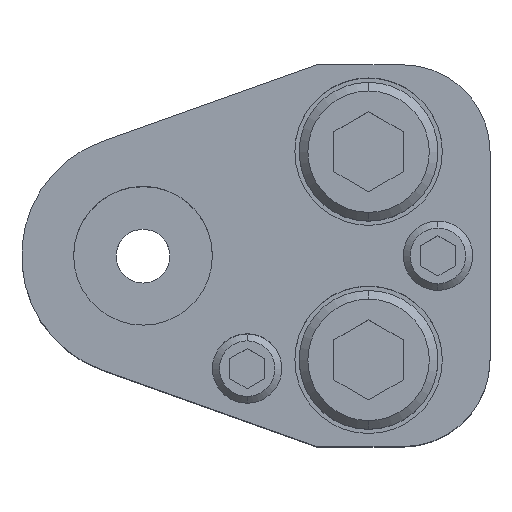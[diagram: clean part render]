
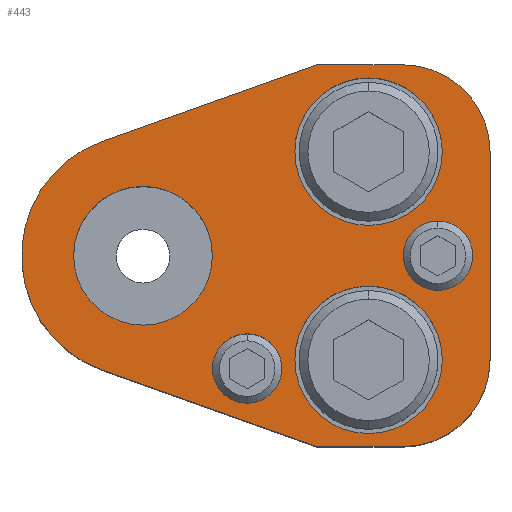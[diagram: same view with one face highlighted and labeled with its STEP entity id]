
A CAD part, top view. The second image highlights one B-rep face of the part: STEP entity #443.
In plain terms, the highlighted planar face has unit normal (0, 0, 1).
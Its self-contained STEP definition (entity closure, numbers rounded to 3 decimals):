
#206=FACE_BOUND('',#803,.T.);
#207=FACE_BOUND('',#804,.T.);
#208=FACE_BOUND('',#805,.T.);
#209=FACE_BOUND('',#806,.T.);
#210=FACE_BOUND('',#807,.T.);
#211=FACE_BOUND('',#808,.T.);
#269=CIRCLE('',#2664,10.);
#271=CIRCLE('',#2668,10.);
#274=CIRCLE('',#2673,4.);
#276=CIRCLE('',#2676,4.);
#278=CIRCLE('',#2679,4.);
#280=CIRCLE('',#2682,4.);
#289=CIRCLE('',#2696,14.);
#290=CIRCLE('',#2697,8.5);
#291=CIRCLE('',#2698,8.5);
#292=CIRCLE('',#2699,8.5);
#293=CIRCLE('',#2700,8.5);
#294=CIRCLE('',#2701,8.);
#295=CIRCLE('',#2702,8.);
#443=ADVANCED_FACE('',(#206,#207,#208,#209,#210,#211),#575,.T.);
#575=PLANE('',#2703);
#803=EDGE_LOOP('',(#1125,#1126,#1127,#1128,#1129,#1130,#1131,#1132));
#804=EDGE_LOOP('',(#1133,#1134));
#805=EDGE_LOOP('',(#1135,#1136));
#806=EDGE_LOOP('',(#1137,#1138));
#807=EDGE_LOOP('',(#1139,#1140));
#808=EDGE_LOOP('',(#1141,#1142));
#1125=ORIENTED_EDGE('',*,*,#1974,.T.);
#1126=ORIENTED_EDGE('',*,*,#1975,.T.);
#1127=ORIENTED_EDGE('',*,*,#1935,.T.);
#1128=ORIENTED_EDGE('',*,*,#1939,.T.);
#1129=ORIENTED_EDGE('',*,*,#1942,.T.);
#1130=ORIENTED_EDGE('',*,*,#1945,.T.);
#1131=ORIENTED_EDGE('',*,*,#1948,.T.);
#1132=ORIENTED_EDGE('',*,*,#1976,.T.);
#1133=ORIENTED_EDGE('',*,*,#1977,.F.);
#1134=ORIENTED_EDGE('',*,*,#1978,.F.);
#1135=ORIENTED_EDGE('',*,*,#1979,.F.);
#1136=ORIENTED_EDGE('',*,*,#1980,.F.);
#1137=ORIENTED_EDGE('',*,*,#1961,.F.);
#1138=ORIENTED_EDGE('',*,*,#1958,.F.);
#1139=ORIENTED_EDGE('',*,*,#1955,.F.);
#1140=ORIENTED_EDGE('',*,*,#1952,.F.);
#1141=ORIENTED_EDGE('',*,*,#1981,.T.);
#1142=ORIENTED_EDGE('',*,*,#1982,.T.);
#1686=VERTEX_POINT('',#3857);
#1687=VERTEX_POINT('',#3859);
#1690=VERTEX_POINT('',#3866);
#1692=VERTEX_POINT('',#3872);
#1694=VERTEX_POINT('',#3878);
#1696=VERTEX_POINT('',#3884);
#1699=VERTEX_POINT('',#3892);
#1700=VERTEX_POINT('',#3894);
#1703=VERTEX_POINT('',#3904);
#1704=VERTEX_POINT('',#3906);
#1713=VERTEX_POINT('',#3937);
#1714=VERTEX_POINT('',#3938);
#1715=VERTEX_POINT('',#3942);
#1716=VERTEX_POINT('',#3943);
#1717=VERTEX_POINT('',#3946);
#1718=VERTEX_POINT('',#3947);
#1719=VERTEX_POINT('',#3950);
#1720=VERTEX_POINT('',#3951);
#1935=EDGE_CURVE('',#1687,#1686,#2269,.T.);
#1939=EDGE_CURVE('',#1686,#1690,#269,.T.);
#1942=EDGE_CURVE('',#1690,#1692,#2274,.T.);
#1945=EDGE_CURVE('',#1692,#1694,#271,.T.);
#1948=EDGE_CURVE('',#1694,#1696,#2278,.T.);
#1952=EDGE_CURVE('',#1699,#1700,#274,.T.);
#1955=EDGE_CURVE('',#1700,#1699,#276,.T.);
#1958=EDGE_CURVE('',#1703,#1704,#278,.T.);
#1961=EDGE_CURVE('',#1704,#1703,#280,.T.);
#1974=EDGE_CURVE('',#1713,#1714,#289,.T.);
#1975=EDGE_CURVE('',#1714,#1687,#2288,.T.);
#1976=EDGE_CURVE('',#1696,#1713,#2289,.T.);
#1977=EDGE_CURVE('',#1715,#1716,#290,.T.);
#1978=EDGE_CURVE('',#1716,#1715,#291,.T.);
#1979=EDGE_CURVE('',#1717,#1718,#292,.T.);
#1980=EDGE_CURVE('',#1718,#1717,#293,.T.);
#1981=EDGE_CURVE('',#1719,#1720,#294,.T.);
#1982=EDGE_CURVE('',#1720,#1719,#295,.T.);
#2269=LINE('',#3858,#2467);
#2274=LINE('',#3873,#2472);
#2278=LINE('',#3885,#2476);
#2288=LINE('',#3939,#2486);
#2289=LINE('',#3940,#2487);
#2467=VECTOR('',#3061,1.);
#2472=VECTOR('',#3074,1.);
#2476=VECTOR('',#3086,1.);
#2486=VECTOR('',#3148,1.);
#2487=VECTOR('',#3149,1.);
#2664=AXIS2_PLACEMENT_3D('',#3867,#3067,#3068);
#2668=AXIS2_PLACEMENT_3D('',#3879,#3079,#3080);
#2673=AXIS2_PLACEMENT_3D('',#3893,#3093,#3094);
#2676=AXIS2_PLACEMENT_3D('',#3898,#3100,#3101);
#2679=AXIS2_PLACEMENT_3D('',#3905,#3107,#3108);
#2682=AXIS2_PLACEMENT_3D('',#3910,#3114,#3115);
#2696=AXIS2_PLACEMENT_3D('',#3936,#3146,#3147);
#2697=AXIS2_PLACEMENT_3D('',#3941,#3150,#3151);
#2698=AXIS2_PLACEMENT_3D('',#3944,#3152,#3153);
#2699=AXIS2_PLACEMENT_3D('',#3945,#3154,#3155);
#2700=AXIS2_PLACEMENT_3D('',#3948,#3156,#3157);
#2701=AXIS2_PLACEMENT_3D('',#3949,#3158,#3159);
#2702=AXIS2_PLACEMENT_3D('',#3952,#3160,#3161);
#2703=AXIS2_PLACEMENT_3D('',#3953,#3162,#3163);
#3061=DIRECTION('',(1.,0.,0.));
#3067=DIRECTION('',(0.,0.,1.));
#3068=DIRECTION('',(-0.707,0.707,0.));
#3074=DIRECTION('',(0.,1.,0.));
#3079=DIRECTION('',(0.,0.,1.));
#3080=DIRECTION('',(-0.707,-0.707,0.));
#3086=DIRECTION('',(-1.,0.,0.));
#3093=DIRECTION('',(0.,0.,1.));
#3094=DIRECTION('',(-1.,0.,0.));
#3100=DIRECTION('',(0.,0.,1.));
#3101=DIRECTION('',(1.,0.,0.));
#3107=DIRECTION('',(0.,0.,1.));
#3108=DIRECTION('',(-1.,0.,0.));
#3114=DIRECTION('',(0.,0.,1.));
#3115=DIRECTION('',(1.,0.,0.));
#3146=DIRECTION('',(0.,0.,1.));
#3147=DIRECTION('',(0.,1.,0.));
#3148=DIRECTION('',(0.942,-0.336,0.));
#3149=DIRECTION('',(-0.942,-0.336,0.));
#3150=DIRECTION('',(0.,0.,1.));
#3151=DIRECTION('',(1.,0.,0.));
#3152=DIRECTION('',(0.,0.,1.));
#3153=DIRECTION('',(-1.,0.,0.));
#3154=DIRECTION('',(0.,0.,1.));
#3155=DIRECTION('',(1.,0.,0.));
#3156=DIRECTION('',(0.,0.,1.));
#3157=DIRECTION('',(-1.,0.,0.));
#3158=DIRECTION('',(0.,0.,-1.));
#3159=DIRECTION('',(-1.,0.,0.));
#3160=DIRECTION('',(0.,0.,-1.));
#3161=DIRECTION('',(1.,0.,0.));
#3162=DIRECTION('',(0.,0.,1.));
#3163=DIRECTION('',(0.942,0.336,0.));
#3857=CARTESIAN_POINT('',(30.,-22.,35.));
#3858=CARTESIAN_POINT('',(20.,-22.,35.));
#3859=CARTESIAN_POINT('',(20.,-22.,35.));
#3866=CARTESIAN_POINT('',(40.,-12.,35.));
#3867=CARTESIAN_POINT('',(30.,-12.,35.));
#3872=CARTESIAN_POINT('',(40.,12.,35.));
#3873=CARTESIAN_POINT('',(40.,-12.,35.));
#3878=CARTESIAN_POINT('',(30.,22.,35.));
#3879=CARTESIAN_POINT('',(30.,12.,35.));
#3884=CARTESIAN_POINT('',(20.,22.,35.));
#3885=CARTESIAN_POINT('',(20.,22.,35.));
#3892=CARTESIAN_POINT('',(12.,-17.,35.));
#3893=CARTESIAN_POINT('',(12.,-13.,35.));
#3894=CARTESIAN_POINT('',(12.,-9.,35.));
#3898=CARTESIAN_POINT('',(12.,-13.,35.));
#3904=CARTESIAN_POINT('',(34.,-4.,35.));
#3905=CARTESIAN_POINT('',(34.,0.,35.));
#3906=CARTESIAN_POINT('',(34.,4.,35.));
#3910=CARTESIAN_POINT('',(34.,0.,35.));
#3936=CARTESIAN_POINT('',(0.,0.,35.));
#3937=CARTESIAN_POINT('',(-4.704,13.186,35.));
#3938=CARTESIAN_POINT('',(-4.704,-13.186,35.));
#3939=CARTESIAN_POINT('',(20.,-22.,35.));
#3940=CARTESIAN_POINT('',(20.,22.,35.));
#3941=CARTESIAN_POINT('',(26.,-12.,35.));
#3942=CARTESIAN_POINT('',(26.,-3.5,35.));
#3943=CARTESIAN_POINT('',(26.,-20.5,35.));
#3944=CARTESIAN_POINT('',(26.,-12.,35.));
#3945=CARTESIAN_POINT('',(26.,12.,35.));
#3946=CARTESIAN_POINT('',(26.,20.5,35.));
#3947=CARTESIAN_POINT('',(26.,3.5,35.));
#3948=CARTESIAN_POINT('',(26.,12.,35.));
#3949=CARTESIAN_POINT('',(0.,0.,35.));
#3950=CARTESIAN_POINT('',(0.,8.,35.));
#3951=CARTESIAN_POINT('',(0.,-8.,35.));
#3952=CARTESIAN_POINT('',(0.,0.,35.));
#3953=CARTESIAN_POINT('',(-4.704,13.186,35.));
